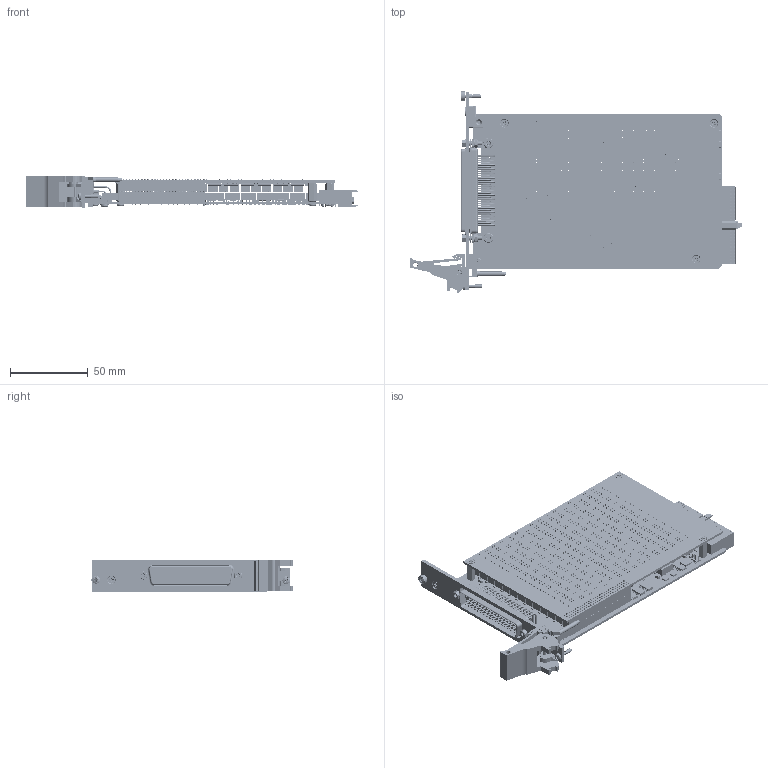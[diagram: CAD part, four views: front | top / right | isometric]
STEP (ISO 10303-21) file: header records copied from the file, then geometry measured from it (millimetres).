
FILE_DESCRIPTION (( 'STEP AP214' ), '1' );
FILE_NAME ('40-586A-001 32x8 1 Pole EMR Matrix.STEP', '2013-09-02T15:04:00', ( 'admin' ), ( '' ), 'SwSTEP 2.0', 'SolidWorks 2012', '' );
FILE_SCHEMA (( 'AUTOMOTIVE_DESIGN' ));
Length unit declared in the file: millimetre
Products named in the file (1): 40-586A-001 32x8 1 Pole EMR Matrix
Bounding box: 214.01 x 129.67 x 20 mm (x, y, z)
Surface area: 115944.6 mm2 (no closed solid volume)
Topology: 0 solids, 3451 shells, 10865 faces, 35764 edges, 26882 vertices
Faces by surface type: plane 5625, cylinder 4905, sphere 190, torus 94, cone 50, bspline 1
Full cylindrical faces by diameter (mm): 0.278 x1, 0.4 x2046, 0.55 x4, 0.6 x110, 0.7 x3, 0.711 x5, 0.75 x1353, 0.8 x84, 0.98 x1, 1 x82, 1.01 x32, 1.4 x6, 1.496 x2, 2 x6, 2.05 x3, 2.45 x1, 2.5 x5, 2.7 x1, 2.8 x1, 3 x3, 3.5 x2, 4.7 x4, 4.85 x7, 5 x2, 5.2 x2, 5.3 x1, 5.5 x2, 5.7 x2, 6 x1, 6.1 x1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
Entity records: 498465 total; most frequent: CARTESIAN_POINT 74331, DIRECTION 65334, ORIENTED_EDGE 43224, EDGE_CURVE 31481, VERTEX_POINT 26672, AXIS2_PLACEMENT_3D 23548, EDGE_LOOP 19820, LINE 18238
